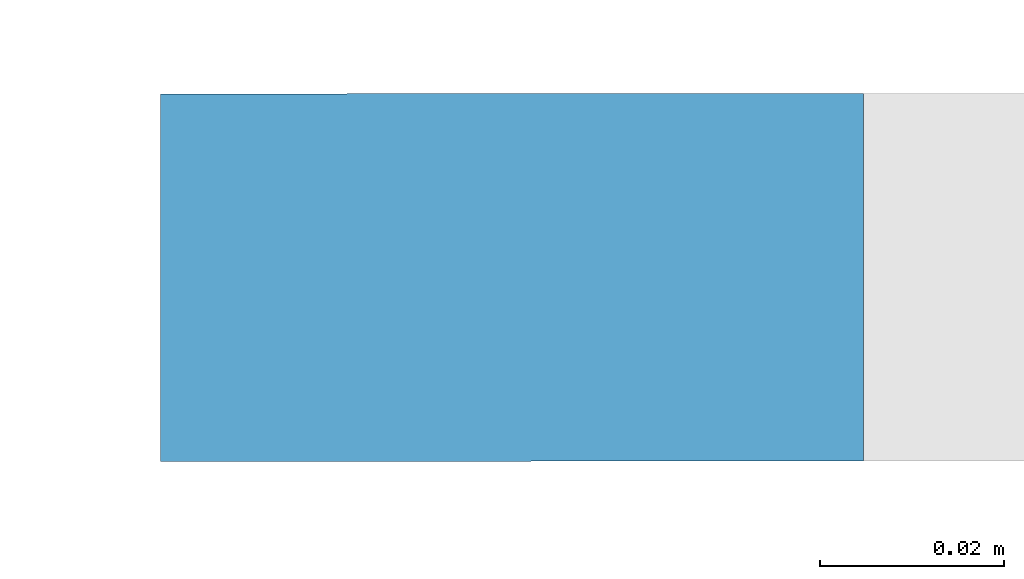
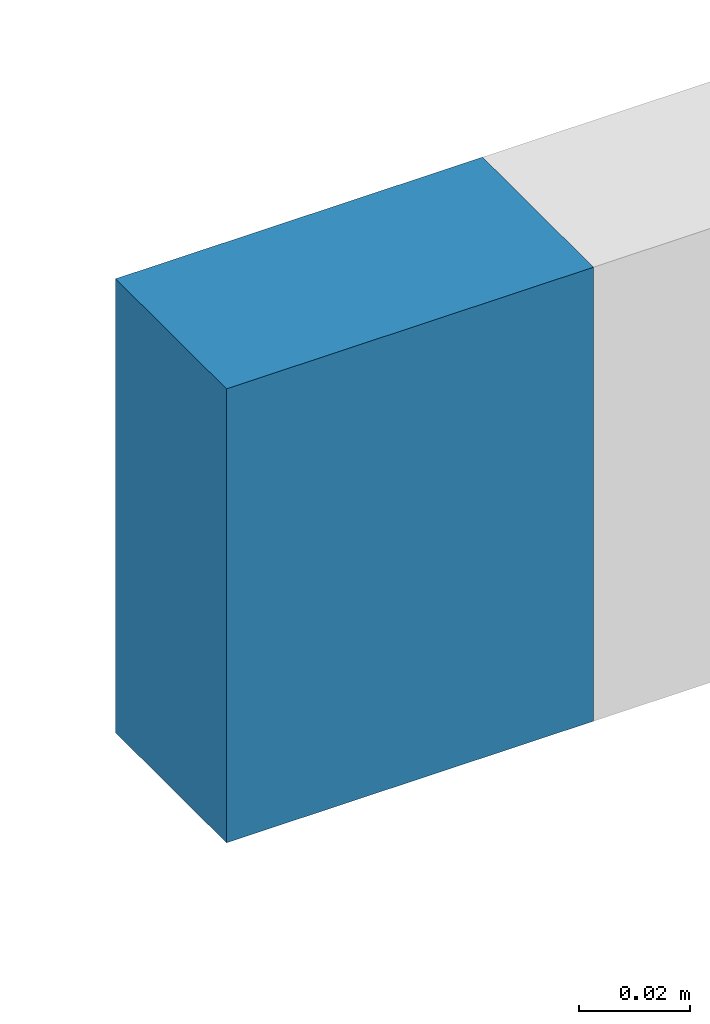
# One storey, part 85 of 171: 1 wall.
"""IFC2X3 building model written with IfcOpenShell, lengths in millimetres."""

import ifcopenshell
import ifcopenshell.guid

model = None  # the IFC model being written
_history = None  # IfcOwnerHistory: only IFC2X3 demands one
_inside = {}  # id of a spatial element -> (the spatial element, [elements in it])
_under = {}  # id of a project, library or spatial element -> (it, [spatial elements below it])
_declared = {}  # id of a project -> (the project, [libraries it declares])
_typed = {}  # id of a type object -> (the type object, [elements of that type])
_made_of = {}  # id of a material, layer set ... -> (it, [elements and type objects made of it])


def new_model(schema):
    """Start an empty IFC model of exactly this schema.

    Asked for "IFC4X3", IfcOpenShell would pick the latest addendum, in which some entities
    have other attributes; the version numbers below select the first issue.
    IFC2X3 requires an IfcOwnerHistory on every rooted entity: one is made here for all.
    """
    global model, _history
    if schema == "IFC4X3":
        model = ifcopenshell.file(schema_version=(4, 3, 0, 0))
    else:
        model = ifcopenshell.file(schema=schema)
    _inside.clear()
    _under.clear()
    _declared.clear()
    _typed.clear()
    _made_of.clear()
    _history = None
    if model.schema == "IFC2X3":
        org = make("IfcOrganization", Name="unknown")
        user = make(
            "IfcPersonAndOrganization",
            ThePerson=make("IfcPerson", FamilyName="unknown"),
            TheOrganization=org,
        )
        app = make(
            "IfcApplication",
            ApplicationDeveloper=org,
            Version="unknown",
            ApplicationFullName="unknown",
            ApplicationIdentifier="unknown",
        )
        _history = make(
            "IfcOwnerHistory",
            OwningUser=user,
            OwningApplication=app,
            ChangeAction="ADDED",
            CreationDate=0,
        )
    return model


def make(cls, **values):
    """One entity of the class cls with the attributes given. An attribute that is None is left unset."""
    return model.create_entity(
        cls, **{name: value for name, value in values.items() if value is not None}
    )


def entity(cls, *values):
    """Any entity or typed value of the class cls, its attributes in the order of the schema. None: left unset."""
    e = model.create_entity(cls)
    for i, value in enumerate(values):
        if value is not None:
            e[i] = value
    return e


def rooted(cls, **values):
    """An entity with a GlobalId (a new one), such as an element, a storey or a relation."""
    return make(cls, GlobalId=ifcopenshell.guid.new(), OwnerHistory=_history, **values)


def si_unit(unit_type, name, prefix=None):
    """IfcSIUnit, for example si_unit("LENGTHUNIT", "METRE", prefix="MILLI")."""
    return make("IfcSIUnit", UnitType=unit_type, Prefix=prefix, Name=name)


def converted_unit(unit_type, name, factor, base, dimensions=None, offset=None):
    """IfcConversionBasedUnit, such as the inch: factor (a typed value) times the base unit."""
    return make(
        "IfcConversionBasedUnit"
        if offset is None
        else "IfcConversionBasedUnitWithOffset",
        ConversionOffset=offset,
        Dimensions=None
        if dimensions is None
        else entity("IfcDimensionalExponents", *dimensions),
        UnitType=unit_type,
        Name=name,
        ConversionFactor=make(
            "IfcMeasureWithUnit", ValueComponent=factor, UnitComponent=base
        ),
    )


def derived_unit(unit_type, elements):
    """IfcDerivedUnit: a product of units, each with its exponent."""
    return make(
        "IfcDerivedUnit",
        Elements=[
            make("IfcDerivedUnitElement", Unit=unit, Exponent=power)
            for unit, power in elements
        ],
        UnitType=unit_type,
    )


def money_unit(currency):
    """IfcMonetaryUnit."""
    return make("IfcMonetaryUnit", Currency=currency)


def assignment(units):
    """IfcUnitAssignment: the units of a project."""
    return None if units is None else make("IfcUnitAssignment", Units=units)


def point(xyz):
    """IfcCartesianPoint."""
    return None if xyz is None else make("IfcCartesianPoint", Coordinates=xyz)


def direction(xyz):
    """IfcDirection."""
    return None if xyz is None else make("IfcDirection", DirectionRatios=xyz)


def frame(location, z_axis=None, x_axis=None):
    """IfcAxis2Placement3D, a coordinate frame: its origin and axes. An axis left out is left unset."""
    return make(
        "IfcAxis2Placement3D",
        Location=point(location),
        Axis=direction(z_axis),
        RefDirection=direction(x_axis),
    )


def origin_with_axes():
    """The frame at (0, 0, 0) with the z axis (0, 0, 1) and the x axis (1, 0, 0) written out."""
    return frame((0.0, 0.0, 0.0), z_axis=(0.0, 0.0, 1.0), x_axis=(1.0, 0.0, 0.0))


def place(relative_to, where):
    """IfcLocalPlacement: puts the frame where relative to a parent placement (None: the world)."""
    return make(
        "IfcLocalPlacement", PlacementRelTo=relative_to, RelativePlacement=where
    )


def context(
    kind, dimensions, precision=None, world=None, true_north=None, identifier=None
):
    """IfcGeometricRepresentationContext, for example the 3D "Model" context."""
    return make(
        "IfcGeometricRepresentationContext",
        ContextIdentifier=identifier,
        ContextType=kind,
        CoordinateSpaceDimension=dimensions,
        Precision=precision,
        WorldCoordinateSystem=world,
        TrueNorth=true_north,
    )


def subcontext(parent, identifier, kind, view, scale=None):
    """IfcGeometricRepresentationSubContext, for example "Body" below "Model"."""
    return make(
        "IfcGeometricRepresentationSubContext",
        ContextIdentifier=identifier,
        ContextType=kind,
        ParentContext=parent,
        TargetScale=scale,
        TargetView=view,
    )


def project(units=None, contexts=None):
    """IfcProject with its units and contexts."""
    return rooted(
        "IfcProject",
        Name="project",
        RepresentationContexts=contexts,
        UnitsInContext=assignment(units),
    )


def spatial(cls, under=None, at=None, **own):
    """A site, building, storey or space (cls), placed at a placement, below another one or the project."""
    s = rooted(cls, ObjectPlacement=at, **own)
    if under is not None:
        _under.setdefault(under.id(), (under, []))[1].append(s)
    return s


def polyline(points):
    """IfcPolyline through the points."""
    return make("IfcPolyline", Points=[point(p) for p in points])


def outline(outer, holes=None, kind="AREA"):
    """IfcArbitraryClosedProfileDef: a profile drawn as a closed curve; with holes, ...WithVoids."""
    if holes is None:
        return make("IfcArbitraryClosedProfileDef", ProfileType=kind, OuterCurve=outer)
    return make(
        "IfcArbitraryProfileDefWithVoids",
        ProfileType=kind,
        OuterCurve=outer,
        InnerCurves=holes,
    )


def extrude(swept, where, along, depth):
    """IfcExtrudedAreaSolid: the profile swept, set in the frame where, extruded along a direction by depth."""
    return make(
        "IfcExtrudedAreaSolid",
        SweptArea=swept,
        Position=where,
        ExtrudedDirection=direction(along),
        Depth=depth,
    )


def shape(context_of_items, identifier, shape_type, items):
    """IfcShapeRepresentation: the items that make up one representation, for example the "Body"."""
    return make(
        "IfcShapeRepresentation",
        ContextOfItems=context_of_items,
        RepresentationIdentifier=identifier,
        RepresentationType=shape_type,
        Items=items,
    )


def material(Name=None, Category=None):
    """IfcMaterial."""
    return make("IfcMaterial", Name=Name, Category=Category)


def layer(
    of_material, thickness, ventilated=None, Name=None, Category=None, Priority=None
):
    """IfcMaterialLayer: one layer of a wall or slab, of a material (None: an air gap)."""
    return make(
        "IfcMaterialLayer",
        Material=of_material,
        LayerThickness=thickness,
        IsVentilated=ventilated,
        Name=Name,
        Category=Category,
        Priority=Priority,
    )


def layer_set(layers, Name=None):
    """IfcMaterialLayerSet."""
    return make("IfcMaterialLayerSet", MaterialLayers=layers, LayerSetName=Name)


def layer_usage(for_layer_set, set_direction, sense, offset, extent=None):
    """IfcMaterialLayerSetUsage: how a layer set lies in its element."""
    return make(
        "IfcMaterialLayerSetUsage",
        ForLayerSet=for_layer_set,
        LayerSetDirection=set_direction,
        DirectionSense=sense,
        OffsetFromReferenceLine=offset,
        ReferenceExtent=extent,
    )


def made_of(thing, what):
    """Note that an element or type object is made of a material, layer set ...; save() writes the relation."""
    if what is not None:
        _made_of.setdefault(what.id(), (what, []))[1].append(thing)
    return thing


def type_object(cls, material=None, **own):
    """A type object (cls), such as IfcWallType, which elements share."""
    return made_of(rooted(cls, **own), material)


def element(
    cls,
    number,
    at=None,
    inside=None,
    cuts=None,
    type_object=None,
    material=None,
    context=None,
    identifier="Body",
    shape_type=None,
    held_by="IfcProductDefinitionShape",
    body=None,
    shapes=None,
    **own,
):
    """One element of the class cls, such as IfcWall. Its Tag is "e" and its number.

    at: its placement. inside: the storey or other place that contains it. cuts: it is an
    opening in that element (IfcRelVoidsElement). A single representation is given by context,
    identifier, shape_type and body (its items); several are given by shapes. held_by: the class
    of the entity that holds the representations. save() writes the other relations.
    """
    e = rooted(cls, Tag="e%d" % number, ObjectPlacement=at, **own)
    if body is not None:
        shapes = [shape(context, identifier, shape_type, body)]
    if shapes is not None:
        e.Representation = make(held_by, Representations=shapes)
    if inside is not None:
        _inside.setdefault(inside.id(), (inside, []))[1].append(e)
    if cuts is not None:
        rooted(
            "IfcRelVoidsElement", RelatingBuildingElement=cuts, RelatedOpeningElement=e
        )
    if type_object is not None:
        _typed.setdefault(type_object.id(), (type_object, []))[1].append(e)
    return made_of(e, material)


def aggregate(whole, parts):
    """IfcRelAggregates: a whole, such as a stair, and the parts it consists of."""
    return rooted("IfcRelAggregates", RelatingObject=whole, RelatedObjects=parts)


def save(model, path):
    """Write the relations noted so far, then the file.

    IfcRelAggregates (storeys below a building ...), IfcRelContainedInSpatialStructure (elements
    in a storey), IfcRelDefinesByType, IfcRelAssociatesMaterial and IfcRelDeclares: one each for
    every whole, place, type object, material and project.
    """
    for whole, parts in _under.values():
        aggregate(whole, parts)
    for where, things in _inside.values():
        rooted(
            "IfcRelContainedInSpatialStructure",
            RelatedElements=things,
            RelatingStructure=where,
        )
    for kind, things in _typed.values():
        rooted("IfcRelDefinesByType", RelatedObjects=things, RelatingType=kind)
    for what, things in _made_of.values():
        rooted("IfcRelAssociatesMaterial", RelatedObjects=things, RelatingMaterial=what)
    for by, libraries in _declared.values():
        rooted("IfcRelDeclares", RelatingContext=by, RelatedDefinitions=libraries)
    model.write(path)


model = new_model("IFC2X3")

# Units and contexts
model_context = context("Model", 3, precision=0.01, world=origin_with_axes(), true_north=direction((0.0, 1.0)))
body_context = subcontext(model_context, "Body", "Model", "MODEL_VIEW")
ifc_project = project(units=[si_unit("LENGTHUNIT", "METRE", prefix="MILLI"), si_unit("AREAUNIT", "SQUARE_METRE"), si_unit("VOLUMEUNIT", "CUBIC_METRE"), converted_unit("PLANEANGLEUNIT", "DEGREE", entity("IfcPlaneAngleMeasure", 0.0174532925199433), si_unit("PLANEANGLEUNIT", "RADIAN"), dimensions=[0, 0, 0, 0, 0, 0, 0]), money_unit("USD"), converted_unit("TIMEUNIT", "Year", entity("IfcTimeMeasure", 31557600.0), si_unit("TIMEUNIT", "SECOND"), dimensions=[0, 0, 1, 0, 0, 0, 0]), si_unit("MASSUNIT", "GRAM", prefix="KILO"), si_unit("THERMODYNAMICTEMPERATUREUNIT", "DEGREE_CELSIUS"), si_unit("LUMINOUSINTENSITYUNIT", "LUMEN"), si_unit("ENERGYUNIT", "JOULE", prefix="MEGA"), derived_unit("THERMALCONDUCTANCEUNIT", [(si_unit("POWERUNIT", "WATT"), 1), (si_unit("LENGTHUNIT", "METRE"), -1), (si_unit("THERMODYNAMICTEMPERATUREUNIT", "KELVIN"), -1)]), derived_unit("SPECIFICHEATCAPACITYUNIT", [(si_unit("ENERGYUNIT", "JOULE"), 1), (si_unit("MASSUNIT", "GRAM", prefix="KILO"), -1), (si_unit("THERMODYNAMICTEMPERATUREUNIT", "KELVIN"), -1)]), derived_unit("MASSDENSITYUNIT", [(si_unit("MASSUNIT", "GRAM", prefix="KILO"), 1), (si_unit("VOLUMEUNIT", "CUBIC_METRE"), -1)])], contexts=[model_context])

# Site, building, storey
site_placement = place(None, origin_with_axes())
site = spatial("IfcSite", under=ifc_project, at=site_placement, Name="Site", CompositionType="ELEMENT")
building_placement = place(site_placement, origin_with_axes())
building = spatial("IfcBuilding", under=site, at=building_placement, Name="Bâtiment", CompositionType="ELEMENT")
storey_placement = place(building_placement, frame((0.0, 0.0, 3000.0), z_axis=(0.0, 0.0, 1.0), x_axis=(1.0, 0.0, 0.0)))
storey = spatial("IfcBuildingStorey", under=building, at=storey_placement, Name="rdc", CompositionType="ELEMENT", Elevation=3000.0)

# Wall
ifc_material = material(Name="Empty Fill 292498448")
ifc_layer = layer(ifc_material, 40.0, ventilated="UNKNOWN")
ifc_layer_set = layer_set([ifc_layer], Name="mur 4cm")
ifc_layer_usage = layer_usage(ifc_layer_set, "AXIS2", "POSITIVE", -40.0)
wall_type = type_object("IfcWallType", Name="mur 4cm 40", PredefinedType="NOTDEFINED")
wall_placement = place(storey_placement, frame((2244270.294040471, -637487.5771221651, -2100.0), z_axis=(0.0, 0.0, 1.0), x_axis=(-0.9999999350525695, -0.0003604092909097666, 0.0)))
element("IfcWallStandardCase", 1, at=wall_placement, inside=storey, type_object=wall_type, material=ifc_layer_usage, Name="Mur-163", context=body_context, shape_type="SweptSolid", body=[
    extrude(outline(polyline([(0.0, -40.00000000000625), (76.47324918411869, -40.00000000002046), (76.47324918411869, 0.0), (0.0, 0.0), (0.0, -40.00000000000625)])), origin_with_axes(), (0.0, 0.0, 1.0), 100.0),
])

save(model, "model.ifc")
